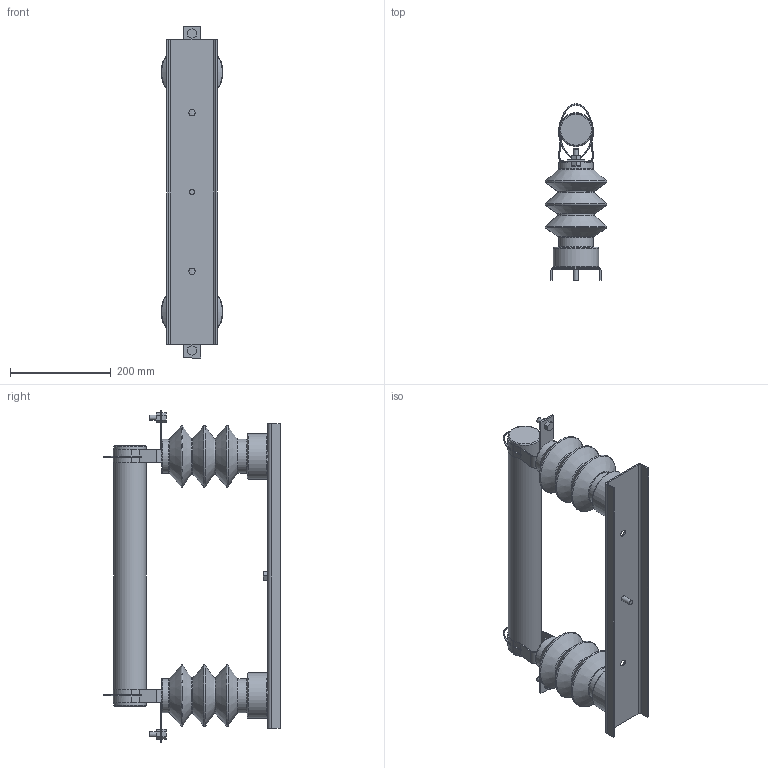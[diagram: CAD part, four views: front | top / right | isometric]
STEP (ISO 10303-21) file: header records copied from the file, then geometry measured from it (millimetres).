
FILE_DESCRIPTION (( 'STEP AP214' ), '1' );
FILE_NAME ('Ïðåäîõðàíèòåëü ÏÊÒ-Ï-20 24-ÓÇ.STEP', '2023-03-03T10:34:36', ( '' ), ( '' ), 'SwSTEP 2.0', 'SolidWorks 2018', '' );
FILE_SCHEMA (( 'AUTOMOTIVE_DESIGN' ));
Length unit declared in the file: millimetre
Products named in the file (1): Ïðåäîõðàíèòåëü ÏÊÒ-Ï-20 24-ÓÇ
Bounding box: 122.52 x 350 x 659 mm (x, y, z)
Volume: 4811438 mm3; surface area: 481369.1 mm2
Topology: 1 solids, 3 shells, 206 faces, 557 edges, 364 vertices
Faces by surface type: plane 119, cylinder 49, torus 24, cone 14
Full cylindrical faces by diameter (mm): 10 x4, 12 x2, 12.5 x2, 65 x1, 68 x4, 90 x2
Entity records: 6016 total; most frequent: CARTESIAN_POINT 1071, DIRECTION 1036, ORIENTED_EDGE 944, EDGE_CURVE 472, AXIS2_PLACEMENT_3D 361, VERTEX_POINT 332, VECTOR 314, LINE 314
